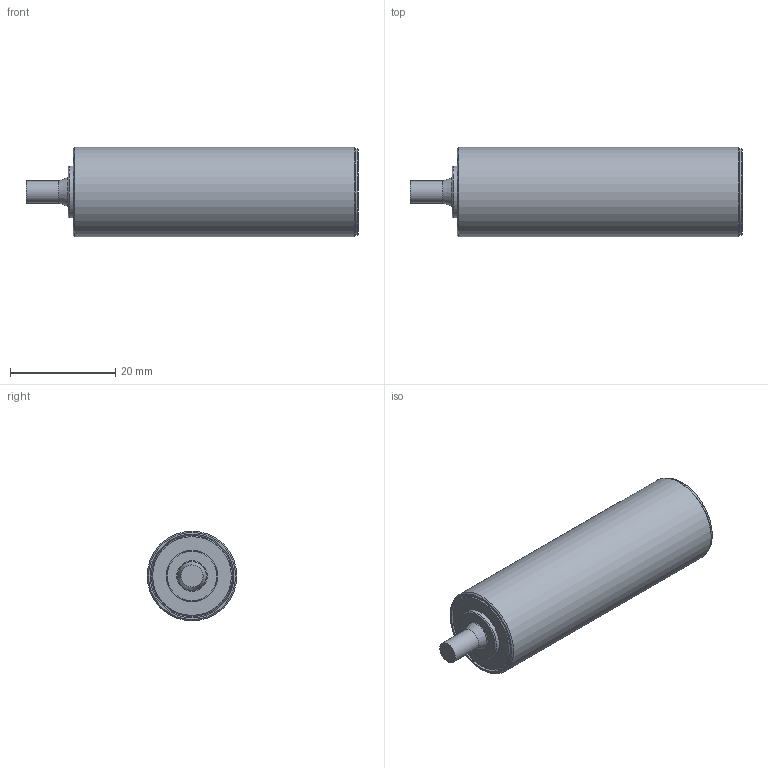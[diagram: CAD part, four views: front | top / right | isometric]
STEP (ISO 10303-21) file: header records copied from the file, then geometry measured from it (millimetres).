
FILE_DESCRIPTION( ( 'Unknown' ), '1' );
FILE_NAME( '//baumernet.org/ch01apps/SolidEdge/Models/Dokumentationen/Induktiv/IxBx 17/Vereinfachte Modelle/Neutralformate/IFBR 17xx7T1_L-9.stp', 'Unknown', ( 'Unknown' ), ( 'Unknown' ), 'PSStep 14.0', 'Unknown', ' ' );
FILE_SCHEMA( ( 'AUTOMOTIVE_DESIGN { 1 0 10303 214 1 1 1 1 }' ) );
Length unit declared in the file: millimetre
Products named in the file (1): 11084169
Bounding box: 62.96 x 17 x 17 mm (x, y, z)
Volume: 12430.9 mm3; surface area: 3539.8 mm2
Topology: 1 solids, 2 shells, 22 faces, 41 edges, 27 vertices
Faces by surface type: plane 8, cone 7, cylinder 5, torus 2
Full cylindrical faces by diameter (mm): 4.2 x1, 9.85 x1, 15.34 x1, 16.4 x1, 17 x1
Entity records: 582 total; most frequent: DIRECTION 86, CARTESIAN_POINT 63, AXIS2_PLACEMENT_3D 43, EDGE_LOOP 40, ORIENTED_EDGE 40, FACE_OUTER_BOUND 29, ADVANCED_FACE 22, EDGE_CURVE 20
